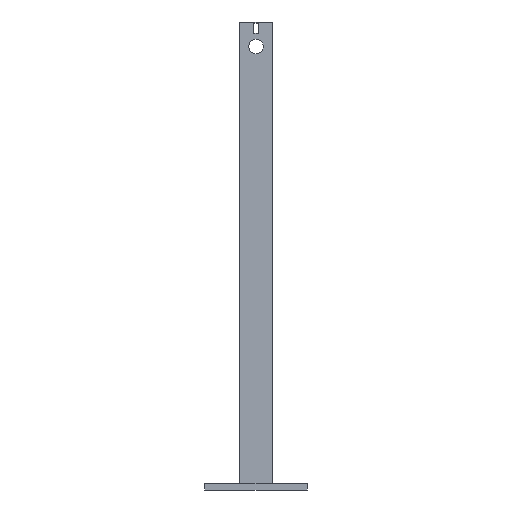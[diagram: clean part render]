
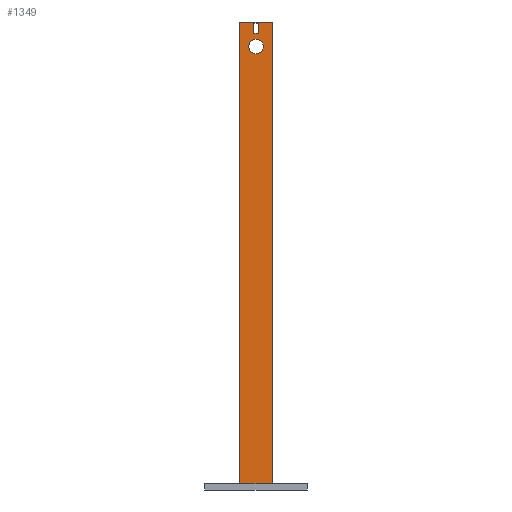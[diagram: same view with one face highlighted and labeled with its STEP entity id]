
A CAD part, left-side view. The second image highlights one B-rep face of the part: STEP entity #1349.
In plain terms, the highlighted planar face has unit normal (-1, 0, 0).
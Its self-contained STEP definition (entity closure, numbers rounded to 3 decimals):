
#126 = PLANE('',#127);
#127 = AXIS2_PLACEMENT_3D('',#128,#129,#130);
#128 = CARTESIAN_POINT('',(0.,0.,3.));
#129 = DIRECTION('',(0.,0.,1.));
#130 = DIRECTION('',(1.,0.,0.));
#388 = VERTEX_POINT('',#389);
#389 = CARTESIAN_POINT('',(6.,17.,3.));
#403 = PLANE('',#404);
#404 = AXIS2_PLACEMENT_3D('',#405,#406,#407);
#405 = CARTESIAN_POINT('',(6.,17.,0.));
#406 = DIRECTION('',(0.,1.,0.));
#407 = DIRECTION('',(0.,0.,1.));
#415 = EDGE_CURVE('',#388,#416,#418,.T.);
#416 = VERTEX_POINT('',#417);
#417 = CARTESIAN_POINT('',(6.,33.,3.));
#418 = SURFACE_CURVE('',#419,(#423,#430),.PCURVE_S1.);
#419 = LINE('',#420,#421);
#420 = CARTESIAN_POINT('',(6.,8.5,3.));
#421 = VECTOR('',#422,1.);
#422 = DIRECTION('',(0.,1.,0.));
#423 = PCURVE('',#126,#424);
#424 = DEFINITIONAL_REPRESENTATION('',(#425),#429);
#425 = LINE('',#426,#427);
#426 = CARTESIAN_POINT('',(6.,8.5));
#427 = VECTOR('',#428,1.);
#428 = DIRECTION('',(0.,1.));
#429 = ( GEOMETRIC_REPRESENTATION_CONTEXT(2) 
PARAMETRIC_REPRESENTATION_CONTEXT() REPRESENTATION_CONTEXT('2D SPACE',''
  ) );
#430 = PCURVE('',#431,#436);
#431 = PLANE('',#432);
#432 = AXIS2_PLACEMENT_3D('',#433,#434,#435);
#433 = CARTESIAN_POINT('',(6.,17.,0.));
#434 = DIRECTION('',(1.,0.,0.));
#435 = DIRECTION('',(0.,0.,1.));
#436 = DEFINITIONAL_REPRESENTATION('',(#437),#441);
#437 = LINE('',#438,#439);
#438 = CARTESIAN_POINT('',(3.,8.5));
#439 = VECTOR('',#440,1.);
#440 = DIRECTION('',(0.,-1.));
#441 = ( GEOMETRIC_REPRESENTATION_CONTEXT(2) 
PARAMETRIC_REPRESENTATION_CONTEXT() REPRESENTATION_CONTEXT('2D SPACE',''
  ) );
#459 = PLANE('',#460);
#460 = AXIS2_PLACEMENT_3D('',#461,#462,#463);
#461 = CARTESIAN_POINT('',(6.,33.,0.));
#462 = DIRECTION('',(0.,1.,0.));
#463 = DIRECTION('',(0.,0.,1.));
#1027 = EDGE_CURVE('',#388,#1028,#1030,.T.);
#1028 = VERTEX_POINT('',#1029);
#1029 = CARTESIAN_POINT('',(6.,17.,229.));
#1030 = SURFACE_CURVE('',#1031,(#1035,#1042),.PCURVE_S1.);
#1031 = LINE('',#1032,#1033);
#1032 = CARTESIAN_POINT('',(6.,17.,0.));
#1033 = VECTOR('',#1034,1.);
#1034 = DIRECTION('',(0.,0.,1.));
#1035 = PCURVE('',#403,#1036);
#1036 = DEFINITIONAL_REPRESENTATION('',(#1037),#1041);
#1037 = LINE('',#1038,#1039);
#1038 = CARTESIAN_POINT('',(0.,0.));
#1039 = VECTOR('',#1040,1.);
#1040 = DIRECTION('',(1.,0.));
#1041 = ( GEOMETRIC_REPRESENTATION_CONTEXT(2) 
PARAMETRIC_REPRESENTATION_CONTEXT() REPRESENTATION_CONTEXT('2D SPACE',''
  ) );
#1042 = PCURVE('',#431,#1043);
#1043 = DEFINITIONAL_REPRESENTATION('',(#1044),#1048);
#1044 = LINE('',#1045,#1046);
#1045 = CARTESIAN_POINT('',(0.,0.));
#1046 = VECTOR('',#1047,1.);
#1047 = DIRECTION('',(1.,0.));
#1048 = ( GEOMETRIC_REPRESENTATION_CONTEXT(2) 
PARAMETRIC_REPRESENTATION_CONTEXT() REPRESENTATION_CONTEXT('2D SPACE',''
  ) );
#1064 = PLANE('',#1065);
#1065 = AXIS2_PLACEMENT_3D('',#1066,#1067,#1068);
#1066 = CARTESIAN_POINT('',(6.,17.,229.));
#1067 = DIRECTION('',(0.,0.,1.));
#1068 = DIRECTION('',(1.,0.,0.));
#1144 = CYLINDRICAL_SURFACE('',#1145,3.6);
#1145 = AXIS2_PLACEMENT_3D('',#1146,#1147,#1148);
#1146 = CARTESIAN_POINT('',(0.,25.,217.));
#1147 = DIRECTION('',(1.,0.,0.));
#1148 = DIRECTION('',(-0.,0.,1.));
#1176 = PLANE('',#1177);
#1177 = AXIS2_PLACEMENT_3D('',#1178,#1179,#1180);
#1178 = CARTESIAN_POINT('',(5.,24.,223.5));
#1179 = DIRECTION('',(0.,0.,1.));
#1180 = DIRECTION('',(1.,0.,0.));
#1204 = PLANE('',#1205);
#1205 = AXIS2_PLACEMENT_3D('',#1206,#1207,#1208);
#1206 = CARTESIAN_POINT('',(5.,24.,223.5));
#1207 = DIRECTION('',(0.,1.,0.));
#1208 = DIRECTION('',(0.,0.,1.));
#1232 = PLANE('',#1233);
#1233 = AXIS2_PLACEMENT_3D('',#1234,#1235,#1236);
#1234 = CARTESIAN_POINT('',(5.,24.,228.5));
#1235 = DIRECTION('',(0.,0.,1.));
#1236 = DIRECTION('',(1.,0.,0.));
#1258 = PLANE('',#1259);
#1259 = AXIS2_PLACEMENT_3D('',#1260,#1261,#1262);
#1260 = CARTESIAN_POINT('',(5.,26.,223.5));
#1261 = DIRECTION('',(0.,1.,0.));
#1262 = DIRECTION('',(0.,0.,1.));
#1275 = EDGE_CURVE('',#416,#1276,#1278,.T.);
#1276 = VERTEX_POINT('',#1277);
#1277 = CARTESIAN_POINT('',(6.,33.,229.));
#1278 = SURFACE_CURVE('',#1279,(#1283,#1290),.PCURVE_S1.);
#1279 = LINE('',#1280,#1281);
#1280 = CARTESIAN_POINT('',(6.,33.,0.));
#1281 = VECTOR('',#1282,1.);
#1282 = DIRECTION('',(0.,0.,1.));
#1283 = PCURVE('',#459,#1284);
#1284 = DEFINITIONAL_REPRESENTATION('',(#1285),#1289);
#1285 = LINE('',#1286,#1287);
#1286 = CARTESIAN_POINT('',(0.,0.));
#1287 = VECTOR('',#1288,1.);
#1288 = DIRECTION('',(1.,0.));
#1289 = ( GEOMETRIC_REPRESENTATION_CONTEXT(2) 
PARAMETRIC_REPRESENTATION_CONTEXT() REPRESENTATION_CONTEXT('2D SPACE',''
  ) );
#1290 = PCURVE('',#431,#1291);
#1291 = DEFINITIONAL_REPRESENTATION('',(#1292),#1296);
#1292 = LINE('',#1293,#1294);
#1293 = CARTESIAN_POINT('',(0.,-16.));
#1294 = VECTOR('',#1295,1.);
#1295 = DIRECTION('',(1.,0.));
#1296 = ( GEOMETRIC_REPRESENTATION_CONTEXT(2) 
PARAMETRIC_REPRESENTATION_CONTEXT() REPRESENTATION_CONTEXT('2D SPACE',''
  ) );
#1349 = ADVANCED_FACE('',(#1350,#1376,#1402),#431,.F.);
#1350 = FACE_BOUND('',#1351,.F.);
#1351 = EDGE_LOOP('',(#1352,#1353,#1354,#1355));
#1352 = ORIENTED_EDGE('',*,*,#1027,.F.);
#1353 = ORIENTED_EDGE('',*,*,#415,.T.);
#1354 = ORIENTED_EDGE('',*,*,#1275,.T.);
#1355 = ORIENTED_EDGE('',*,*,#1356,.F.);
#1356 = EDGE_CURVE('',#1028,#1276,#1357,.T.);
#1357 = SURFACE_CURVE('',#1358,(#1362,#1369),.PCURVE_S1.);
#1358 = LINE('',#1359,#1360);
#1359 = CARTESIAN_POINT('',(6.,17.,229.));
#1360 = VECTOR('',#1361,1.);
#1361 = DIRECTION('',(0.,1.,0.));
#1362 = PCURVE('',#431,#1363);
#1363 = DEFINITIONAL_REPRESENTATION('',(#1364),#1368);
#1364 = LINE('',#1365,#1366);
#1365 = CARTESIAN_POINT('',(229.,0.));
#1366 = VECTOR('',#1367,1.);
#1367 = DIRECTION('',(0.,-1.));
#1368 = ( GEOMETRIC_REPRESENTATION_CONTEXT(2) 
PARAMETRIC_REPRESENTATION_CONTEXT() REPRESENTATION_CONTEXT('2D SPACE',''
  ) );
#1369 = PCURVE('',#1064,#1370);
#1370 = DEFINITIONAL_REPRESENTATION('',(#1371),#1375);
#1371 = LINE('',#1372,#1373);
#1372 = CARTESIAN_POINT('',(0.,0.));
#1373 = VECTOR('',#1374,1.);
#1374 = DIRECTION('',(0.,1.));
#1375 = ( GEOMETRIC_REPRESENTATION_CONTEXT(2) 
PARAMETRIC_REPRESENTATION_CONTEXT() REPRESENTATION_CONTEXT('2D SPACE',''
  ) );
#1376 = FACE_BOUND('',#1377,.F.);
#1377 = EDGE_LOOP('',(#1378));
#1378 = ORIENTED_EDGE('',*,*,#1379,.F.);
#1379 = EDGE_CURVE('',#1380,#1380,#1382,.T.);
#1380 = VERTEX_POINT('',#1381);
#1381 = CARTESIAN_POINT('',(6.,25.,220.6));
#1382 = SURFACE_CURVE('',#1383,(#1388,#1395),.PCURVE_S1.);
#1383 = CIRCLE('',#1384,3.6);
#1384 = AXIS2_PLACEMENT_3D('',#1385,#1386,#1387);
#1385 = CARTESIAN_POINT('',(6.,25.,217.));
#1386 = DIRECTION('',(1.,0.,0.));
#1387 = DIRECTION('',(-0.,0.,1.));
#1388 = PCURVE('',#431,#1389);
#1389 = DEFINITIONAL_REPRESENTATION('',(#1390),#1394);
#1390 = CIRCLE('',#1391,3.6);
#1391 = AXIS2_PLACEMENT_2D('',#1392,#1393);
#1392 = CARTESIAN_POINT('',(217.,-8.));
#1393 = DIRECTION('',(1.,0.));
#1394 = ( GEOMETRIC_REPRESENTATION_CONTEXT(2) 
PARAMETRIC_REPRESENTATION_CONTEXT() REPRESENTATION_CONTEXT('2D SPACE',''
  ) );
#1395 = PCURVE('',#1144,#1396);
#1396 = DEFINITIONAL_REPRESENTATION('',(#1397),#1401);
#1397 = LINE('',#1398,#1399);
#1398 = CARTESIAN_POINT('',(0.,6.));
#1399 = VECTOR('',#1400,1.);
#1400 = DIRECTION('',(1.,0.));
#1401 = ( GEOMETRIC_REPRESENTATION_CONTEXT(2) 
PARAMETRIC_REPRESENTATION_CONTEXT() REPRESENTATION_CONTEXT('2D SPACE',''
  ) );
#1402 = FACE_BOUND('',#1403,.F.);
#1403 = EDGE_LOOP('',(#1404,#1429,#1452,#1475));
#1404 = ORIENTED_EDGE('',*,*,#1405,.T.);
#1405 = EDGE_CURVE('',#1406,#1408,#1410,.T.);
#1406 = VERTEX_POINT('',#1407);
#1407 = CARTESIAN_POINT('',(6.,26.,223.5));
#1408 = VERTEX_POINT('',#1409);
#1409 = CARTESIAN_POINT('',(6.,24.,223.5));
#1410 = SURFACE_CURVE('',#1411,(#1415,#1422),.PCURVE_S1.);
#1411 = LINE('',#1412,#1413);
#1412 = CARTESIAN_POINT('',(6.,20.5,223.5));
#1413 = VECTOR('',#1414,1.);
#1414 = DIRECTION('',(0.,-1.,0.));
#1415 = PCURVE('',#431,#1416);
#1416 = DEFINITIONAL_REPRESENTATION('',(#1417),#1421);
#1417 = LINE('',#1418,#1419);
#1418 = CARTESIAN_POINT('',(223.5,-3.5));
#1419 = VECTOR('',#1420,1.);
#1420 = DIRECTION('',(0.,1.));
#1421 = ( GEOMETRIC_REPRESENTATION_CONTEXT(2) 
PARAMETRIC_REPRESENTATION_CONTEXT() REPRESENTATION_CONTEXT('2D SPACE',''
  ) );
#1422 = PCURVE('',#1176,#1423);
#1423 = DEFINITIONAL_REPRESENTATION('',(#1424),#1428);
#1424 = LINE('',#1425,#1426);
#1425 = CARTESIAN_POINT('',(1.,-3.5));
#1426 = VECTOR('',#1427,1.);
#1427 = DIRECTION('',(0.,-1.));
#1428 = ( GEOMETRIC_REPRESENTATION_CONTEXT(2) 
PARAMETRIC_REPRESENTATION_CONTEXT() REPRESENTATION_CONTEXT('2D SPACE',''
  ) );
#1429 = ORIENTED_EDGE('',*,*,#1430,.T.);
#1430 = EDGE_CURVE('',#1408,#1431,#1433,.T.);
#1431 = VERTEX_POINT('',#1432);
#1432 = CARTESIAN_POINT('',(6.,24.,228.5));
#1433 = SURFACE_CURVE('',#1434,(#1438,#1445),.PCURVE_S1.);
#1434 = LINE('',#1435,#1436);
#1435 = CARTESIAN_POINT('',(6.,24.,111.75));
#1436 = VECTOR('',#1437,1.);
#1437 = DIRECTION('',(0.,0.,1.));
#1438 = PCURVE('',#431,#1439);
#1439 = DEFINITIONAL_REPRESENTATION('',(#1440),#1444);
#1440 = LINE('',#1441,#1442);
#1441 = CARTESIAN_POINT('',(111.75,-7.));
#1442 = VECTOR('',#1443,1.);
#1443 = DIRECTION('',(1.,0.));
#1444 = ( GEOMETRIC_REPRESENTATION_CONTEXT(2) 
PARAMETRIC_REPRESENTATION_CONTEXT() REPRESENTATION_CONTEXT('2D SPACE',''
  ) );
#1445 = PCURVE('',#1204,#1446);
#1446 = DEFINITIONAL_REPRESENTATION('',(#1447),#1451);
#1447 = LINE('',#1448,#1449);
#1448 = CARTESIAN_POINT('',(-111.75,1.));
#1449 = VECTOR('',#1450,1.);
#1450 = DIRECTION('',(1.,0.));
#1451 = ( GEOMETRIC_REPRESENTATION_CONTEXT(2) 
PARAMETRIC_REPRESENTATION_CONTEXT() REPRESENTATION_CONTEXT('2D SPACE',''
  ) );
#1452 = ORIENTED_EDGE('',*,*,#1453,.F.);
#1453 = EDGE_CURVE('',#1454,#1431,#1456,.T.);
#1454 = VERTEX_POINT('',#1455);
#1455 = CARTESIAN_POINT('',(6.,26.,228.5));
#1456 = SURFACE_CURVE('',#1457,(#1461,#1468),.PCURVE_S1.);
#1457 = LINE('',#1458,#1459);
#1458 = CARTESIAN_POINT('',(6.,20.5,228.5));
#1459 = VECTOR('',#1460,1.);
#1460 = DIRECTION('',(0.,-1.,0.));
#1461 = PCURVE('',#431,#1462);
#1462 = DEFINITIONAL_REPRESENTATION('',(#1463),#1467);
#1463 = LINE('',#1464,#1465);
#1464 = CARTESIAN_POINT('',(228.5,-3.5));
#1465 = VECTOR('',#1466,1.);
#1466 = DIRECTION('',(0.,1.));
#1467 = ( GEOMETRIC_REPRESENTATION_CONTEXT(2) 
PARAMETRIC_REPRESENTATION_CONTEXT() REPRESENTATION_CONTEXT('2D SPACE',''
  ) );
#1468 = PCURVE('',#1232,#1469);
#1469 = DEFINITIONAL_REPRESENTATION('',(#1470),#1474);
#1470 = LINE('',#1471,#1472);
#1471 = CARTESIAN_POINT('',(1.,-3.5));
#1472 = VECTOR('',#1473,1.);
#1473 = DIRECTION('',(0.,-1.));
#1474 = ( GEOMETRIC_REPRESENTATION_CONTEXT(2) 
PARAMETRIC_REPRESENTATION_CONTEXT() REPRESENTATION_CONTEXT('2D SPACE',''
  ) );
#1475 = ORIENTED_EDGE('',*,*,#1476,.F.);
#1476 = EDGE_CURVE('',#1406,#1454,#1477,.T.);
#1477 = SURFACE_CURVE('',#1478,(#1482,#1489),.PCURVE_S1.);
#1478 = LINE('',#1479,#1480);
#1479 = CARTESIAN_POINT('',(6.,26.,111.75));
#1480 = VECTOR('',#1481,1.);
#1481 = DIRECTION('',(0.,0.,1.));
#1482 = PCURVE('',#431,#1483);
#1483 = DEFINITIONAL_REPRESENTATION('',(#1484),#1488);
#1484 = LINE('',#1485,#1486);
#1485 = CARTESIAN_POINT('',(111.75,-9.));
#1486 = VECTOR('',#1487,1.);
#1487 = DIRECTION('',(1.,0.));
#1488 = ( GEOMETRIC_REPRESENTATION_CONTEXT(2) 
PARAMETRIC_REPRESENTATION_CONTEXT() REPRESENTATION_CONTEXT('2D SPACE',''
  ) );
#1489 = PCURVE('',#1258,#1490);
#1490 = DEFINITIONAL_REPRESENTATION('',(#1491),#1495);
#1491 = LINE('',#1492,#1493);
#1492 = CARTESIAN_POINT('',(-111.75,1.));
#1493 = VECTOR('',#1494,1.);
#1494 = DIRECTION('',(1.,0.));
#1495 = ( GEOMETRIC_REPRESENTATION_CONTEXT(2) 
PARAMETRIC_REPRESENTATION_CONTEXT() REPRESENTATION_CONTEXT('2D SPACE',''
  ) );
